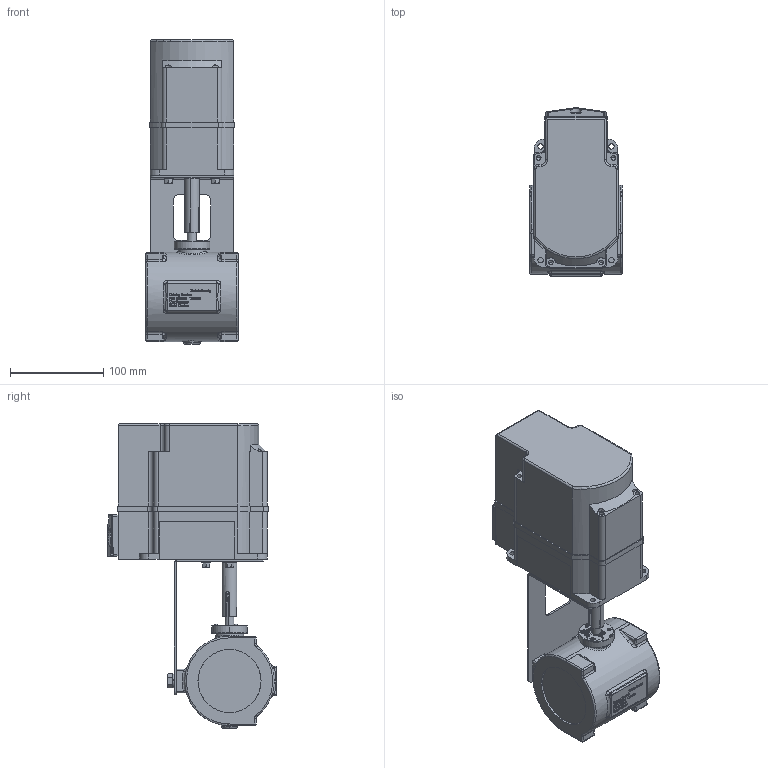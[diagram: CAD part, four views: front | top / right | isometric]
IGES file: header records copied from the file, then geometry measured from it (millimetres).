
Global section: file name: No Iges File Name specified; native system: AutoDesk Inventor R12.0; preprocessor: AutoDesk Inventor Iges Exporter R12.0; date: 20110328.094744; units: millimetre
Bounding box: 99 x 180.55 x 326 mm (x, y, z)
Volume: 2608969.6 mm3; surface area: 209271.3 mm2
Topology: 1 solids, 15 shells, 2841 faces, 7588 edges, 4947 vertices
Faces by surface type: plane 1469, bspline 1005, cylinder 182, revolution 97, cone 47, torus 31, sphere 10
Full cylindrical faces by diameter (mm): 9.2 x3, 14.8 x2
